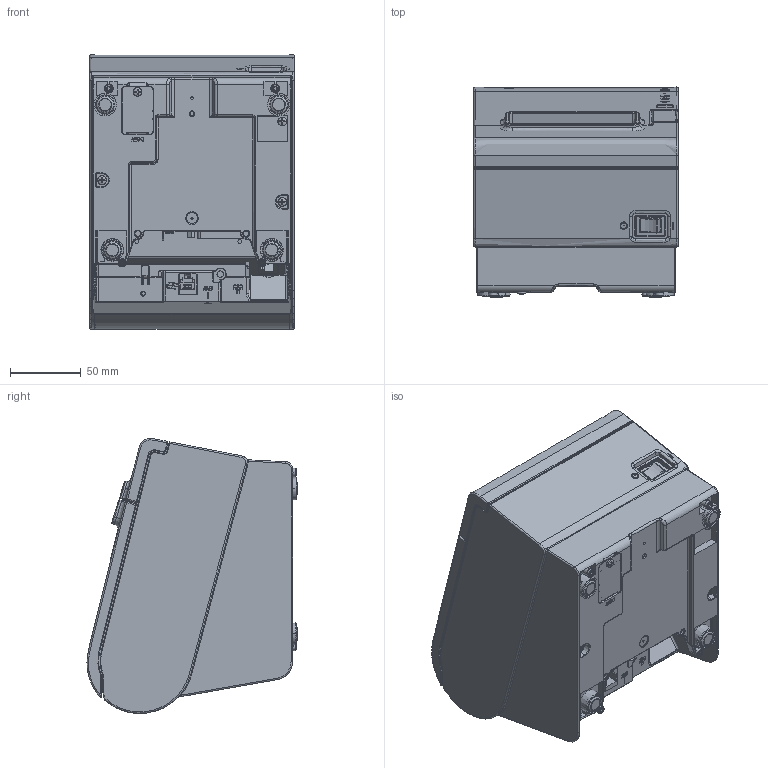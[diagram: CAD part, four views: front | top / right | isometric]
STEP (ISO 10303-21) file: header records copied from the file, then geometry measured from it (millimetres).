
FILE_DESCRIPTION((''),'2;1');
FILE_NAME('TM-T88VII_CLOSE','2025-01-15T17:15:53',('5012938'),(''),'CREO PARAMETRIC BY PTC INC, 2022281','CREO PARAMETRIC BY PTC INC, 2022281','');
FILE_SCHEMA(('AUTOMOTIVE_DESIGN { 1 0 10303 214 1 1 1 1 }'));
Products named in the file (1): TM-T88VII_CLOSE
Bounding box: 145 x 148.89 x 194.79 mm (x, y, z)
Surface area: 439173.5 mm2 (no closed solid volume)
Topology: 0 solids, 87 shells, 6355 faces, 19611 edges, 13099 vertices
Faces by surface type: plane 3263, cylinder 2210, bspline 424, cone 180, torus 172, sphere 74, extrusion 32
Entity records: 282184 total; most frequent: CARTESIAN_POINT 111773, ORIENTED_EDGE 35873, DIRECTION 33466, EDGE_CURVE 19598, VERTEX_POINT 13099, VECTOR 12142, LINE 12110, AXIS2_PLACEMENT_3D 10662
